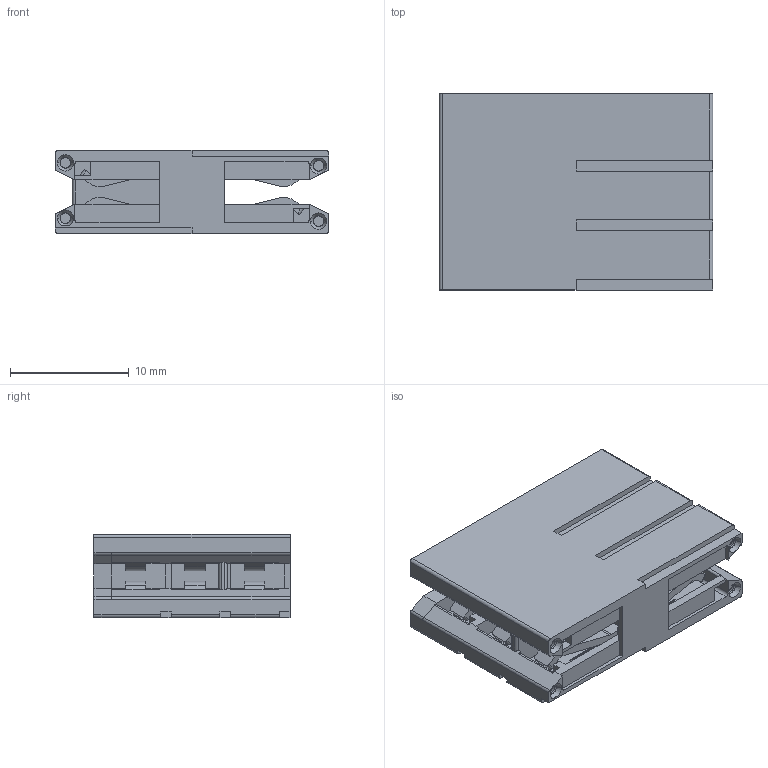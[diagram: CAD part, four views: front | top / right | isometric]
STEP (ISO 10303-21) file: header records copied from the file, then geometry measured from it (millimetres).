
FILE_DESCRIPTION((''),'2;1');
FILE_NAME('3PIN_SW0001','2019-06-06T',('zhenbing.lai'),(''),'CREO PARAMETRIC BY PTC INC, 2016260','CREO PARAMETRIC BY PTC INC, 2016260','');
FILE_SCHEMA(('CONFIG_CONTROL_DESIGN'));
Length unit declared in the file: millimetre
Products named in the file (1): 3PIN_SW0001
Bounding box: 23 x 16.5 x 7 mm (x, y, z)
Volume: 1270 mm3; surface area: 3255.6 mm2
Topology: 1 solids, 1 shells, 719 faces, 2130 edges, 1388 vertices
Faces by surface type: plane 455, cylinder 216, cone 40, torus 8
Entity records: 24220 total; most frequent: CARTESIAN_POINT 4696, ORIENTED_EDGE 4260, DIRECTION 3860, EDGE_CURVE 2130, VECTOR 1692, LINE 1692, VERTEX_POINT 1388, AXIS2_PLACEMENT_3D 1084
